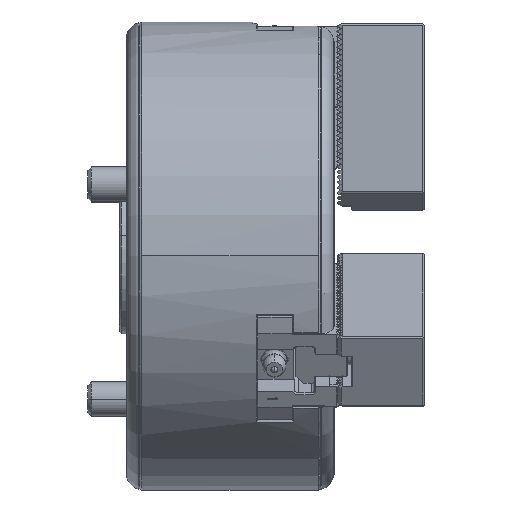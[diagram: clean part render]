
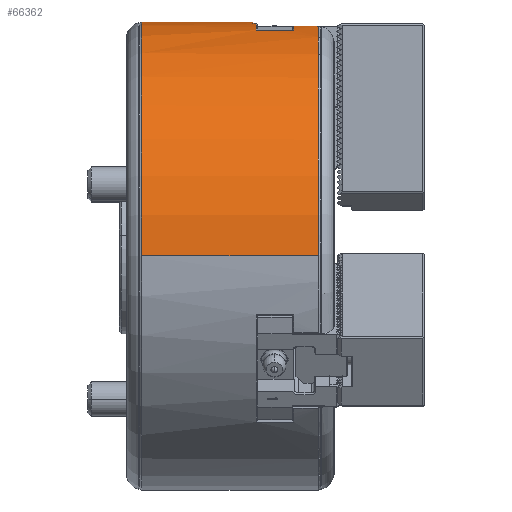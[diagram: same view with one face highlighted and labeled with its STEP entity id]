
A CAD part, top view. The second image highlights one B-rep face of the part: STEP entity #66362.
In plain terms, the highlighted cylindrical face has radius 67.5 mm (diameter 135 mm), a partial arc.
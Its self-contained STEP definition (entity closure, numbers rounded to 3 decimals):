
#61 = VERTEX_POINT ( 'NONE', #18574 ) ;
#1174 = CARTESIAN_POINT ( 'NONE',  ( -23.4, 67.088, 7.444 ) ) ;
#1938 = CARTESIAN_POINT ( 'NONE',  ( -55.5, 0., 0. ) ) ;
#3531 = LINE ( 'NONE', #74841, #88211 ) ;
#4075 = DIRECTION ( 'NONE',  ( 1., 0., 0. ) ) ;
#4212 = DIRECTION ( 'NONE',  ( 0., 1., 0. ) ) ;
#4818 = ORIENTED_EDGE ( 'NONE', *, *, #83141, .T. ) ;
#7353 = AXIS2_PLACEMENT_3D ( 'NONE', #53130, #39320, #31270 ) ;
#7920 = LINE ( 'NONE', #78262, #93984 ) ;
#8040 = CARTESIAN_POINT ( 'NONE',  ( -11.6, 66.316, 12.588 ) ) ;
#8502 = CARTESIAN_POINT ( 'NONE',  ( -4.5, 66.316, 12.588 ) ) ;
#8862 = CARTESIAN_POINT ( 'NONE',  ( -4.5, 0., 0. ) ) ;
#8894 = DIRECTION ( 'NONE',  ( 1., 0., 0. ) ) ;
#9617 = ORIENTED_EDGE ( 'NONE', *, *, #33252, .F. ) ;
#11910 = DIRECTION ( 'NONE',  ( -1., 0., 0. ) ) ;
#12035 = CIRCLE ( 'NONE', #59141, 67.5 ) ;
#13549 = CARTESIAN_POINT ( 'NONE',  ( 0., 66.316, -12.588 ) ) ;
#13586 = ORIENTED_EDGE ( 'NONE', *, *, #63819, .F. ) ;
#13728 = CARTESIAN_POINT ( 'NONE',  ( -4.5, 66.316, -12.588 ) ) ;
#18216 = CARTESIAN_POINT ( 'NONE',  ( -11.6, 0., 0. ) ) ;
#18310 = VECTOR ( 'NONE', #8894, 1000. ) ;
#18328 = DIRECTION ( 'NONE',  ( 0., 0., -1. ) ) ;
#18574 = CARTESIAN_POINT ( 'NONE',  ( -22.4, 65.103, -17.827 ) ) ;
#18895 = DIRECTION ( 'NONE',  ( 0., 0., -1. ) ) ;
#20298 = ORIENTED_EDGE ( 'NONE', *, *, #57326, .T. ) ;
#20500 = VERTEX_POINT ( 'NONE', #84391 ) ;
#22507 = CARTESIAN_POINT ( 'NONE',  ( 0., 0., 67.5 ) ) ;
#25461 = LINE ( 'NONE', #44970, #18310 ) ;
#26485 = AXIS2_PLACEMENT_3D ( 'NONE', #33219, #68403, #91203 ) ;
#27126 = VECTOR ( 'NONE', #50537, 1000. ) ;
#27173 = CARTESIAN_POINT ( 'NONE',  ( -22.4, 67.088, -7.444 ) ) ;
#27723 = CARTESIAN_POINT ( 'NONE',  ( 0., 65.103, -17.827 ) ) ;
#28356 = AXIS2_PLACEMENT_3D ( 'NONE', #47873, #33616, #18895 ) ;
#28524 = CARTESIAN_POINT ( 'NONE',  ( -22.4, 67.088, 7.444 ) ) ;
#29141 = VERTEX_POINT ( 'NONE', #92567 ) ;
#30919 = DIRECTION ( 'NONE',  ( 1., 0., 0. ) ) ;
#31270 = DIRECTION ( 'NONE',  ( 0., 0., 1. ) ) ;
#31633 = ORIENTED_EDGE ( 'NONE', *, *, #78519, .T. ) ;
#31642 = VECTOR ( 'NONE', #72427, 1000. ) ;
#32020 = DIRECTION ( 'NONE',  ( 0., 0., 1. ) ) ;
#32412 = AXIS2_PLACEMENT_3D ( 'NONE', #38526, #30919, #89378 ) ;
#32512 = DIRECTION ( 'NONE',  ( 1., 0., 0. ) ) ;
#33219 = CARTESIAN_POINT ( 'NONE',  ( -22.4, 0., 0. ) ) ;
#33252 = EDGE_CURVE ( 'NONE', #29141, #93256, #58983, .T. ) ;
#33411 = VERTEX_POINT ( 'NONE', #70215 ) ;
#33433 = EDGE_CURVE ( 'NONE', #85289, #73062, #7920, .T. ) ;
#33488 = CIRCLE ( 'NONE', #60783, 67.5 ) ;
#33616 = DIRECTION ( 'NONE',  ( -1., 0., 0. ) ) ;
#33640 = EDGE_CURVE ( 'NONE', #52457, #72412, #83302, .T. ) ;
#33839 = CARTESIAN_POINT ( 'NONE',  ( -22.4, 65.103, 17.827 ) ) ;
#34742 = AXIS2_PLACEMENT_3D ( 'NONE', #8862, #74418, #66371 ) ;
#34995 = EDGE_LOOP ( 'NONE', ( #59031, #69052, #76755, #59394, #20298, #58553, #48755, #89904, #86989, #9617, #66351, #88213, #4818, #31633, #84447, #42015, #13586 ) ) ;
#35331 = CIRCLE ( 'NONE', #88455, 67.5 ) ;
#35962 = EDGE_CURVE ( 'NONE', #93256, #68342, #25461, .T. ) ;
#38526 = CARTESIAN_POINT ( 'NONE',  ( -4.5, 0., 0. ) ) ;
#38912 = DIRECTION ( 'NONE',  ( 1., 0., 0. ) ) ;
#39320 = DIRECTION ( 'NONE',  ( 1., 0., 0. ) ) ;
#39466 = LINE ( 'NONE', #82277, #89051 ) ;
#40281 = DIRECTION ( 'NONE',  ( 0., 0., 1. ) ) ;
#40448 = EDGE_CURVE ( 'NONE', #90342, #92802, #76374, .T. ) ;
#42015 = ORIENTED_EDGE ( 'NONE', *, *, #33640, .F. ) ;
#43099 = VERTEX_POINT ( 'NONE', #60324 ) ;
#43312 = CARTESIAN_POINT ( 'NONE',  ( -55.5, 0., 67.5 ) ) ;
#44802 = LINE ( 'NONE', #73812, #72629 ) ;
#44970 = CARTESIAN_POINT ( 'NONE',  ( -22.7, 67.088, 7.444 ) ) ;
#46294 = VERTEX_POINT ( 'NONE', #58096 ) ;
#47873 = CARTESIAN_POINT ( 'NONE',  ( -22.4, 0., 0. ) ) ;
#48252 = DIRECTION ( 'NONE',  ( 1., 0., 0. ) ) ;
#48500 = CARTESIAN_POINT ( 'NONE',  ( -4.5, 0., 67.5 ) ) ;
#48755 = ORIENTED_EDGE ( 'NONE', *, *, #33433, .T. ) ;
#49584 = LINE ( 'NONE', #27723, #27126 ) ;
#50376 = EDGE_CURVE ( 'NONE', #58615, #61, #58400, .T. ) ;
#50537 = DIRECTION ( 'NONE',  ( 1., 0., 0. ) ) ;
#51731 = CARTESIAN_POINT ( 'NONE',  ( -11.6, 65.103, 17.827 ) ) ;
#52457 = VERTEX_POINT ( 'NONE', #91445 ) ;
#53130 = CARTESIAN_POINT ( 'NONE',  ( -23.4, 0., 0. ) ) ;
#54630 = EDGE_CURVE ( 'NONE', #58615, #29141, #44802, .T. ) ;
#54638 = EDGE_CURVE ( 'NONE', #71282, #92802, #66699, .T. ) ;
#55044 = DIRECTION ( 'NONE',  ( 1., 0., 0. ) ) ;
#57291 = VECTOR ( 'NONE', #48252, 1000. ) ;
#57326 = EDGE_CURVE ( 'NONE', #90342, #73731, #39466, .T. ) ;
#58096 = CARTESIAN_POINT ( 'NONE',  ( -55.5, 0., -67.5 ) ) ;
#58400 = CIRCLE ( 'NONE', #26485, 67.5 ) ;
#58553 = ORIENTED_EDGE ( 'NONE', *, *, #89255, .T. ) ;
#58615 = VERTEX_POINT ( 'NONE', #27173 ) ;
#58983 = CIRCLE ( 'NONE', #7353, 67.5 ) ;
#59031 = ORIENTED_EDGE ( 'NONE', *, *, #61981, .T. ) ;
#59141 = AXIS2_PLACEMENT_3D ( 'NONE', #84508, #38912, #4212 ) ;
#59394 = ORIENTED_EDGE ( 'NONE', *, *, #40448, .F. ) ;
#59930 = DIRECTION ( 'NONE',  ( 0., 1., 0. ) ) ;
#60324 = CARTESIAN_POINT ( 'NONE',  ( -11.6, 66.316, -12.588 ) ) ;
#60783 = AXIS2_PLACEMENT_3D ( 'NONE', #1938, #68432, #59930 ) ;
#61981 = EDGE_CURVE ( 'NONE', #46294, #33411, #12035, .T. ) ;
#63106 = CARTESIAN_POINT ( 'NONE',  ( -11.6, 0., 0. ) ) ;
#63767 = CIRCLE ( 'NONE', #77411, 67.5 ) ;
#63819 = EDGE_CURVE ( 'NONE', #46294, #52457, #3531, .T. ) ;
#65564 = AXIS2_PLACEMENT_3D ( 'NONE', #84376, #4075, #18328 ) ;
#66351 = ORIENTED_EDGE ( 'NONE', *, *, #54630, .F. ) ;
#66362 = ADVANCED_FACE ( 'NONE', ( #83426 ), #76787, .T. ) ;
#66371 = DIRECTION ( 'NONE',  ( 0., 1., 0. ) ) ;
#66699 = LINE ( 'NONE', #22507, #31642 ) ;
#68342 = VERTEX_POINT ( 'NONE', #28524 ) ;
#68403 = DIRECTION ( 'NONE',  ( -1., 0., 0. ) ) ;
#68432 = DIRECTION ( 'NONE',  ( 1., 0., 0. ) ) ;
#69052 = ORIENTED_EDGE ( 'NONE', *, *, #86449, .T. ) ;
#70215 = CARTESIAN_POINT ( 'NONE',  ( -55.5, 67.5, 0. ) ) ;
#71282 = VERTEX_POINT ( 'NONE', #43312 ) ;
#72412 = VERTEX_POINT ( 'NONE', #13728 ) ;
#72427 = DIRECTION ( 'NONE',  ( 1., 0., 0. ) ) ;
#72629 = VECTOR ( 'NONE', #87135, 1000. ) ;
#73062 = VERTEX_POINT ( 'NONE', #33839 ) ;
#73731 = VERTEX_POINT ( 'NONE', #8040 ) ;
#73811 = EDGE_CURVE ( 'NONE', #73062, #68342, #76949, .T. ) ;
#73812 = CARTESIAN_POINT ( 'NONE',  ( -22.7, 67.088, -7.444 ) ) ;
#74418 = DIRECTION ( 'NONE',  ( 1., 0., 0. ) ) ;
#74841 = CARTESIAN_POINT ( 'NONE',  ( 0., 0., -67.5 ) ) ;
#75407 = EDGE_CURVE ( 'NONE', #43099, #72412, #86237, .T. ) ;
#76374 = CIRCLE ( 'NONE', #32412, 67.5 ) ;
#76755 = ORIENTED_EDGE ( 'NONE', *, *, #54638, .T. ) ;
#76787 = CYLINDRICAL_SURFACE ( 'NONE', #65564, 67.5 ) ;
#76949 = CIRCLE ( 'NONE', #28356, 67.5 ) ;
#77411 = AXIS2_PLACEMENT_3D ( 'NONE', #18216, #81931, #32020 ) ;
#78262 = CARTESIAN_POINT ( 'NONE',  ( 0., 65.103, 17.827 ) ) ;
#78519 = EDGE_CURVE ( 'NONE', #20500, #43099, #63767, .T. ) ;
#81931 = DIRECTION ( 'NONE',  ( 1., 0., 0. ) ) ;
#82277 = CARTESIAN_POINT ( 'NONE',  ( 0., 66.316, 12.588 ) ) ;
#83141 = EDGE_CURVE ( 'NONE', #61, #20500, #49584, .T. ) ;
#83302 = CIRCLE ( 'NONE', #34742, 67.5 ) ;
#83426 = FACE_OUTER_BOUND ( 'NONE', #34995, .T. ) ;
#84376 = CARTESIAN_POINT ( 'NONE',  ( 0., 0., 0. ) ) ;
#84391 = CARTESIAN_POINT ( 'NONE',  ( -11.6, 65.103, -17.827 ) ) ;
#84447 = ORIENTED_EDGE ( 'NONE', *, *, #75407, .T. ) ;
#84508 = CARTESIAN_POINT ( 'NONE',  ( -55.5, 0., 0. ) ) ;
#85289 = VERTEX_POINT ( 'NONE', #51731 ) ;
#86237 = LINE ( 'NONE', #13549, #57291 ) ;
#86449 = EDGE_CURVE ( 'NONE', #33411, #71282, #33488, .T. ) ;
#86794 = DIRECTION ( 'NONE',  ( -1., 0., 0. ) ) ;
#86989 = ORIENTED_EDGE ( 'NONE', *, *, #35962, .F. ) ;
#87135 = DIRECTION ( 'NONE',  ( -1., 0., 0. ) ) ;
#88211 = VECTOR ( 'NONE', #32512, 1000. ) ;
#88213 = ORIENTED_EDGE ( 'NONE', *, *, #50376, .T. ) ;
#88455 = AXIS2_PLACEMENT_3D ( 'NONE', #63106, #55044, #40281 ) ;
#89051 = VECTOR ( 'NONE', #11910, 1000. ) ;
#89255 = EDGE_CURVE ( 'NONE', #73731, #85289, #35331, .T. ) ;
#89378 = DIRECTION ( 'NONE',  ( 0., 1., 0. ) ) ;
#89904 = ORIENTED_EDGE ( 'NONE', *, *, #73811, .T. ) ;
#90342 = VERTEX_POINT ( 'NONE', #8502 ) ;
#91203 = DIRECTION ( 'NONE',  ( 0., 0., -1. ) ) ;
#91445 = CARTESIAN_POINT ( 'NONE',  ( -4.5, 0., -67.5 ) ) ;
#92567 = CARTESIAN_POINT ( 'NONE',  ( -23.4, 67.088, -7.444 ) ) ;
#92802 = VERTEX_POINT ( 'NONE', #48500 ) ;
#93256 = VERTEX_POINT ( 'NONE', #1174 ) ;
#93984 = VECTOR ( 'NONE', #86794, 1000. ) ;
